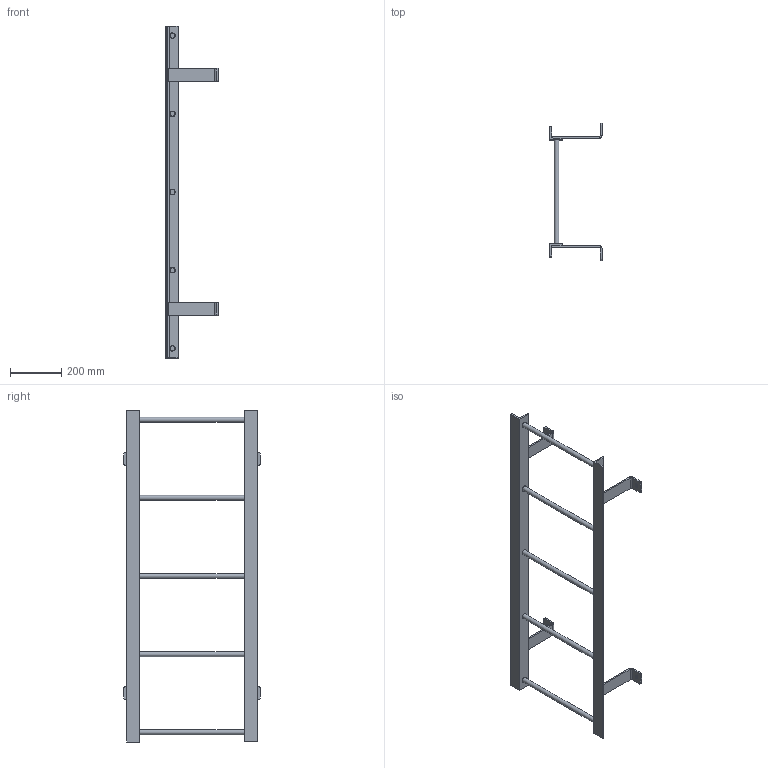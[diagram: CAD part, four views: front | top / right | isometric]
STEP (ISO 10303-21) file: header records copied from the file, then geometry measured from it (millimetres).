
FILE_DESCRIPTION(/* description */ (''),/* implementation_level */ '2;1');
FILE_NAME(/* name */ 'P:\MIKEL & KAREN\3570205 F5S SIMPLIFIED PART.stp',/* time_stamp */ '2018-07-02T15:18:13-04:00',/* author */ ('stephanie'),/* organization */ (''),/* preprocessor_version */ 'ST-DEVELOPER v16.1',/* originating_system */ 'Autodesk Inventor 2016',/* authorisation */ '');
FILE_SCHEMA (('AUTOMOTIVE_DESIGN { 1 0 10303 214 3 1 1 }'));
Length unit declared in the file: centimetre
Products named in the file (1): 3570205 F5S SIMPLIFIED PART
Bounding box: 203.33 x 533.25 x 1295.4 mm (x, y, z)
Volume: 2457120.6 mm3; surface area: 736269.6 mm2
Topology: 7 solids, 7 shells, 105 faces, 279 edges, 188 vertices
Faces by surface type: plane 63, cylinder 42
Full cylindrical faces by diameter (mm): 14.287 x4, 19.05 x5, 22.225 x10
Entity records: 3272 total; most frequent: DIRECTION 550, CARTESIAN_POINT 526, ORIENTED_EDGE 492, EDGE_CURVE 246, AXIS2_PLACEMENT_3D 198, VERTEX_POINT 174, LINE 154, VECTOR 154
